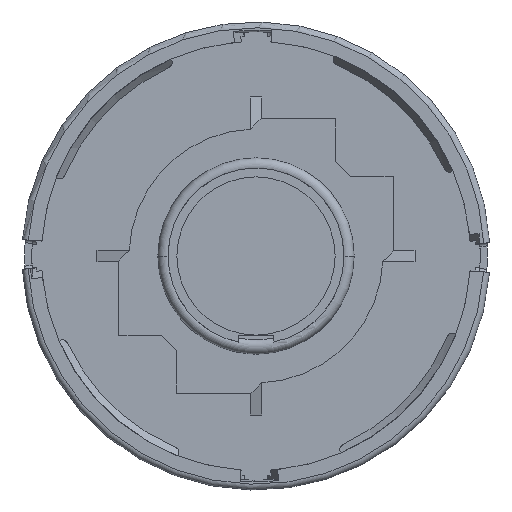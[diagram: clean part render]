
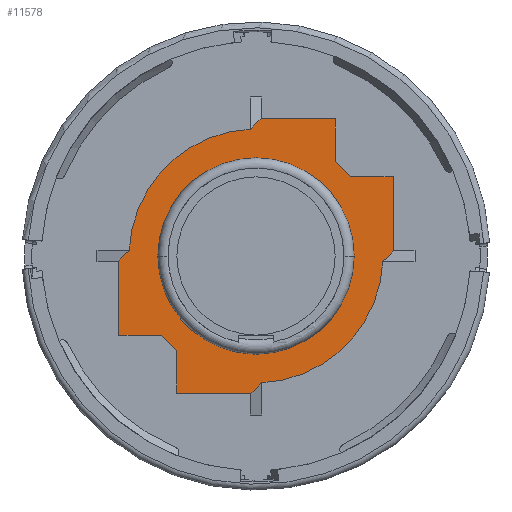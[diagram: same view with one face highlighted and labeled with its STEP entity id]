
A CAD part, front view. The second image highlights one B-rep face of the part: STEP entity #11578.
In plain terms, the highlighted planar face has unit normal (0, -1, 0).
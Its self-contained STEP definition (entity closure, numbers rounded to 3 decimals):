
#1050=DIRECTION('',(0.,0.,1.));
#1051=VECTOR('',#1050,12.422);
#1052=CARTESIAN_POINT('',(-23.5,-9.,-13.295));
#1053=LINE('',#1052,#1051);
#1057=CARTESIAN_POINT('',(0.,-9.,0.));
#1058=DIRECTION('',(0.,-1.,0.));
#1059=DIRECTION('',(-0.5,0.,-0.866));
#1060=AXIS2_PLACEMENT_3D('',#1057,#1058,#1059);
#1065=DIRECTION('',(0.707,0.,-0.707));
#1066=VECTOR('',#1065,3.816);
#1067=CARTESIAN_POINT('',(-16.198,-9.,-13.5));
#1068=LINE('',#1067,#1066);
#1072=CARTESIAN_POINT('',(0.,-9.,0.));
#1073=DIRECTION('',(0.,-1.,0.));
#1074=DIRECTION('',(-0.87,0.,-0.492));
#1075=AXIS2_PLACEMENT_3D('',#1072,#1073,#1074);
#1080=DIRECTION('',(-0.707,0.,-0.707));
#1081=VECTOR('',#1080,2.648);
#1082=CARTESIAN_POINT('',(-21.627,-9.,1.));
#1083=LINE('',#1082,#1081);
#1087=CARTESIAN_POINT('',(0.,-9.,0.));
#1088=DIRECTION('',(0.,-1.,0.));
#1089=DIRECTION('',(-0.046,0.,0.999));
#1090=AXIS2_PLACEMENT_3D('',#1087,#1088,#1089);
#1095=DIRECTION('',(-0.707,0.,-0.707));
#1096=VECTOR('',#1095,2.648);
#1097=CARTESIAN_POINT('',(0.873,-9.,23.5));
#1098=LINE('',#1097,#1096);
#1102=CARTESIAN_POINT('',(0.,-9.,0.));
#1103=DIRECTION('',(0.,-1.,0.));
#1104=DIRECTION('',(0.5,0.,0.866));
#1105=AXIS2_PLACEMENT_3D('',#1102,#1103,#1104);
#1110=DIRECTION('',(-0.707,0.,0.707));
#1111=VECTOR('',#1110,3.816);
#1112=CARTESIAN_POINT('',(16.198,-9.,13.5));
#1113=LINE('',#1112,#1111);
#1117=CARTESIAN_POINT('',(0.,-9.,0.));
#1118=DIRECTION('',(0.,-1.,0.));
#1119=DIRECTION('',(0.87,0.,0.492));
#1120=AXIS2_PLACEMENT_3D('',#1117,#1118,#1119);
#1125=DIRECTION('',(0.707,0.,0.707));
#1126=VECTOR('',#1125,2.648);
#1127=CARTESIAN_POINT('',(21.627,-9.,-1.));
#1128=LINE('',#1127,#1126);
#1132=CARTESIAN_POINT('',(0.,-9.,0.));
#1133=DIRECTION('',(0.,-1.,0.));
#1134=DIRECTION('',(0.046,0.,-0.999));
#1135=AXIS2_PLACEMENT_3D('',#1132,#1133,#1134);
#1140=DIRECTION('',(0.707,0.,0.707));
#1141=VECTOR('',#1140,2.648);
#1142=CARTESIAN_POINT('',(-0.873,-9.,-23.5));
#1143=LINE('',#1142,#1141);
#1147=CARTESIAN_POINT('',(0.,-9.,0.));
#1148=DIRECTION('',(0.,1.,0.));
#1149=DIRECTION('',(0.,0.,1.));
#1150=AXIS2_PLACEMENT_3D('',#1147,#1148,#1149);
#1155=CARTESIAN_POINT('',(0.,-9.,0.));
#1156=DIRECTION('',(0.,1.,0.));
#1157=DIRECTION('',(0.,0.,-1.));
#1158=AXIS2_PLACEMENT_3D('',#1155,#1156,#1157);
#1177=DIRECTION('',(-1.,0.,0.));
#1178=VECTOR('',#1177,12.422);
#1179=CARTESIAN_POINT('',(-0.873,-9.,-23.5));
#1180=LINE('',#1179,#1178);
#1250=DIRECTION('',(0.,0.,-1.));
#1251=VECTOR('',#1250,12.422);
#1252=CARTESIAN_POINT('',(23.5,-9.,13.295));
#1253=LINE('',#1252,#1251);
#1281=DIRECTION('',(1.,0.,0.));
#1282=VECTOR('',#1281,7.184);
#1283=CARTESIAN_POINT('',(16.198,-9.,13.5));
#1284=LINE('',#1283,#1282);
#1322=DIRECTION('',(0.,0.,-1.));
#1323=VECTOR('',#1322,7.184);
#1324=CARTESIAN_POINT('',(13.5,-9.,23.383));
#1325=LINE('',#1324,#1323);
#1343=DIRECTION('',(1.,0.,0.));
#1344=VECTOR('',#1343,12.422);
#1345=CARTESIAN_POINT('',(0.873,-9.,23.5));
#1346=LINE('',#1345,#1344);
#1399=DIRECTION('',(0.,0.,1.));
#1400=VECTOR('',#1399,7.184);
#1401=CARTESIAN_POINT('',(-13.5,-9.,-23.383));
#1402=LINE('',#1401,#1400);
#1447=DIRECTION('',(-1.,0.,0.));
#1448=VECTOR('',#1447,7.184);
#1449=CARTESIAN_POINT('',(-16.198,-9.,-13.5));
#1450=LINE('',#1449,#1448);
#9381=CARTESIAN_POINT('',(1.,-9.,-21.627));
#9383=VERTEX_POINT('',#9381);
#9384=CARTESIAN_POINT('',(-0.873,-9.,-23.5));
#9385=VERTEX_POINT('',#9384);
#9389=CARTESIAN_POINT('',(21.627,-9.,-1.));
#9391=VERTEX_POINT('',#9389);
#9393=CARTESIAN_POINT('',(-13.5,-9.,-23.383));
#9395=VERTEX_POINT('',#9393);
#9396=CARTESIAN_POINT('',(-13.295,-9.,-23.5));
#9398=VERTEX_POINT('',#9396);
#9400=CARTESIAN_POINT('',(-13.5,-9.,-16.198));
#9401=VERTEX_POINT('',#9400);
#9404=CARTESIAN_POINT('',(-16.198,-9.,-13.5));
#9405=VERTEX_POINT('',#9404);
#9408=CARTESIAN_POINT('',(-23.383,-9.,-13.5));
#9409=VERTEX_POINT('',#9408);
#9413=CARTESIAN_POINT('',(-23.5,-9.,-13.295));
#9415=VERTEX_POINT('',#9413);
#9416=CARTESIAN_POINT('',(-23.5,-9.,-0.873));
#9417=VERTEX_POINT('',#9416);
#9420=CARTESIAN_POINT('',(-21.627,-9.,1.));
#9421=VERTEX_POINT('',#9420);
#9424=CARTESIAN_POINT('',(-1.,-9.,21.627));
#9425=VERTEX_POINT('',#9424);
#9428=CARTESIAN_POINT('',(0.873,-9.,23.5));
#9429=VERTEX_POINT('',#9428);
#9432=CARTESIAN_POINT('',(13.295,-9.,23.5));
#9433=VERTEX_POINT('',#9432);
#9437=CARTESIAN_POINT('',(13.5,-9.,23.383));
#9439=VERTEX_POINT('',#9437);
#9440=CARTESIAN_POINT('',(13.5,-9.,16.198));
#9441=VERTEX_POINT('',#9440);
#9444=CARTESIAN_POINT('',(16.198,-9.,13.5));
#9445=VERTEX_POINT('',#9444);
#9448=CARTESIAN_POINT('',(23.383,-9.,13.5));
#9449=VERTEX_POINT('',#9448);
#9452=CARTESIAN_POINT('',(23.5,-9.,13.295));
#9453=VERTEX_POINT('',#9452);
#9456=CARTESIAN_POINT('',(23.5,-9.,0.873));
#9457=VERTEX_POINT('',#9456);
#9568=CARTESIAN_POINT('',(0.,-9.,-15.));
#9569=CARTESIAN_POINT('',(0.,-9.,15.));
#9570=VERTEX_POINT('',#9568);
#9571=VERTEX_POINT('',#9569);
#11528=CARTESIAN_POINT('',(0.,-9.,0.));
#11529=DIRECTION('',(0.,1.,0.));
#11530=DIRECTION('',(0.,0.,1.));
#11531=AXIS2_PLACEMENT_3D('',#11528,#11529,#11530);
#11532=PLANE('',#11531);
#11534=ORIENTED_EDGE('',*,*,#11533,.T.);
#11536=ORIENTED_EDGE('',*,*,#11535,.F.);
#11538=ORIENTED_EDGE('',*,*,#11537,.T.);
#11540=ORIENTED_EDGE('',*,*,#11539,.F.);
#11542=ORIENTED_EDGE('',*,*,#11541,.T.);
#11543=ORIENTED_EDGE('',*,*,#11520,.F.);
#11544=ORIENTED_EDGE('',*,*,#11509,.T.);
#11545=ORIENTED_EDGE('',*,*,#11495,.F.);
#11547=ORIENTED_EDGE('',*,*,#11546,.F.);
#11549=ORIENTED_EDGE('',*,*,#11548,.F.);
#11551=ORIENTED_EDGE('',*,*,#11550,.T.);
#11553=ORIENTED_EDGE('',*,*,#11552,.F.);
#11555=ORIENTED_EDGE('',*,*,#11554,.T.);
#11557=ORIENTED_EDGE('',*,*,#11556,.F.);
#11559=ORIENTED_EDGE('',*,*,#11558,.T.);
#11561=ORIENTED_EDGE('',*,*,#11560,.F.);
#11563=ORIENTED_EDGE('',*,*,#11562,.T.);
#11565=ORIENTED_EDGE('',*,*,#11564,.F.);
#11567=ORIENTED_EDGE('',*,*,#11566,.F.);
#11569=ORIENTED_EDGE('',*,*,#11568,.F.);
#11570=EDGE_LOOP('',(#11534,#11536,#11538,#11540,#11542,#11543,#11544,#11545,
#11547,#11549,#11551,#11553,#11555,#11557,#11559,#11561,#11563,#11565,#11567,
#11569));
#11571=FACE_OUTER_BOUND('',#11570,.F.);
#11573=ORIENTED_EDGE('',*,*,#11572,.F.);
#11575=ORIENTED_EDGE('',*,*,#11574,.F.);
#11576=EDGE_LOOP('',(#11573,#11575));
#11577=FACE_BOUND('',#11576,.F.);
#1061=CIRCLE('',#1060,27.);
#1076=CIRCLE('',#1075,27.);
#1091=CIRCLE('',#1090,21.651);
#1106=CIRCLE('',#1105,27.);
#1121=CIRCLE('',#1120,27.);
#1136=CIRCLE('',#1135,21.651);
#1151=CIRCLE('',#1150,15.);
#1159=CIRCLE('',#1158,15.);
#11495=EDGE_CURVE('',#9421,#9417,#1083,.T.);
#11509=EDGE_CURVE('',#9415,#9417,#1053,.T.);
#11520=EDGE_CURVE('',#9415,#9409,#1076,.T.);
#11533=EDGE_CURVE('',#9385,#9398,#1180,.T.);
#11535=EDGE_CURVE('',#9395,#9398,#1061,.T.);
#11537=EDGE_CURVE('',#9395,#9401,#1402,.T.);
#11539=EDGE_CURVE('',#9405,#9401,#1068,.T.);
#11541=EDGE_CURVE('',#9405,#9409,#1450,.T.);
#11546=EDGE_CURVE('',#9425,#9421,#1091,.T.);
#11548=EDGE_CURVE('',#9429,#9425,#1098,.T.);
#11550=EDGE_CURVE('',#9429,#9433,#1346,.T.);
#11552=EDGE_CURVE('',#9439,#9433,#1106,.T.);
#11554=EDGE_CURVE('',#9439,#9441,#1325,.T.);
#11556=EDGE_CURVE('',#9445,#9441,#1113,.T.);
#11558=EDGE_CURVE('',#9445,#9449,#1284,.T.);
#11560=EDGE_CURVE('',#9453,#9449,#1121,.T.);
#11562=EDGE_CURVE('',#9453,#9457,#1253,.T.);
#11564=EDGE_CURVE('',#9391,#9457,#1128,.T.);
#11566=EDGE_CURVE('',#9383,#9391,#1136,.T.);
#11568=EDGE_CURVE('',#9385,#9383,#1143,.T.);
#11572=EDGE_CURVE('',#9571,#9570,#1151,.T.);
#11574=EDGE_CURVE('',#9570,#9571,#1159,.T.);
#11578=ADVANCED_FACE('',(#11571,#11577),#11532,.F.);
